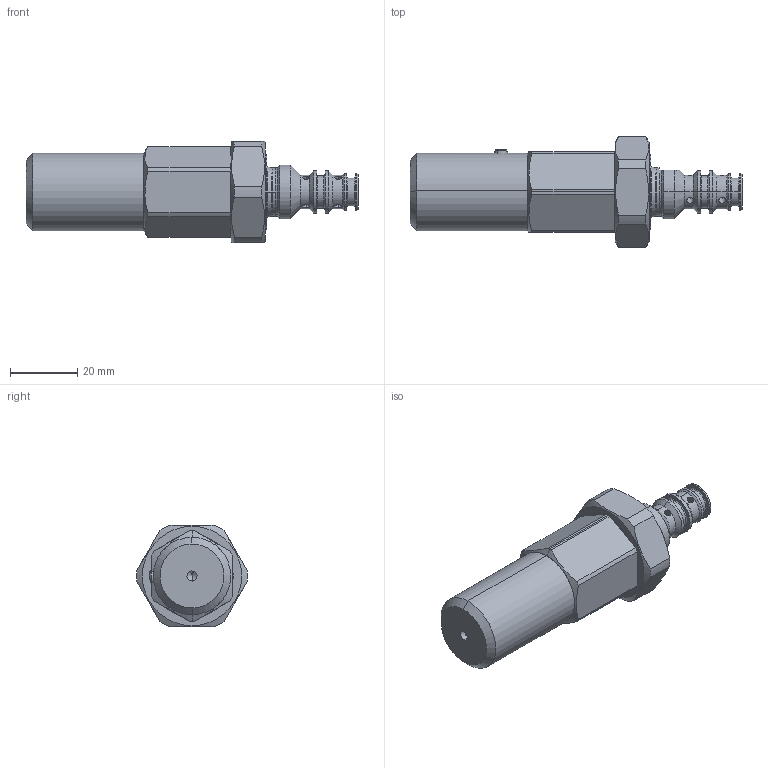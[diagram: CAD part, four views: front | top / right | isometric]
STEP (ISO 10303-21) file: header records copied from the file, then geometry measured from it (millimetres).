
FILE_DESCRIPTION (( 'STEP AP214' ), '1' );
FILE_NAME ('MDAPM16.STEP', '2014-07-14T12:24:07', ( '' ), ( '' ), 'SwSTEP 2.0', 'SolidWorks 2014', '' );
FILE_SCHEMA (( 'AUTOMOTIVE_DESIGN' ));
Length unit declared in the file: millimetre
Products named in the file (2): MDAPM16
Bounding box: 98.6 x 32.98 x 30 mm (x, y, z)
Volume: 35080.1 mm3; surface area: 15022.2 mm2
Topology: 7 solids, 7 shells, 289 faces, 708 edges, 435 vertices
Faces by surface type: cylinder 112, plane 87, cone 77, torus 13
Entity records: 12393 total; most frequent: CARTESIAN_POINT 2313, DIRECTION 1473, ORIENTED_EDGE 1400, EDGE_CURVE 700, AXIS2_PLACEMENT_3D 599, VERTEX_POINT 435, EDGE_LOOP 313, CIRCLE 308
